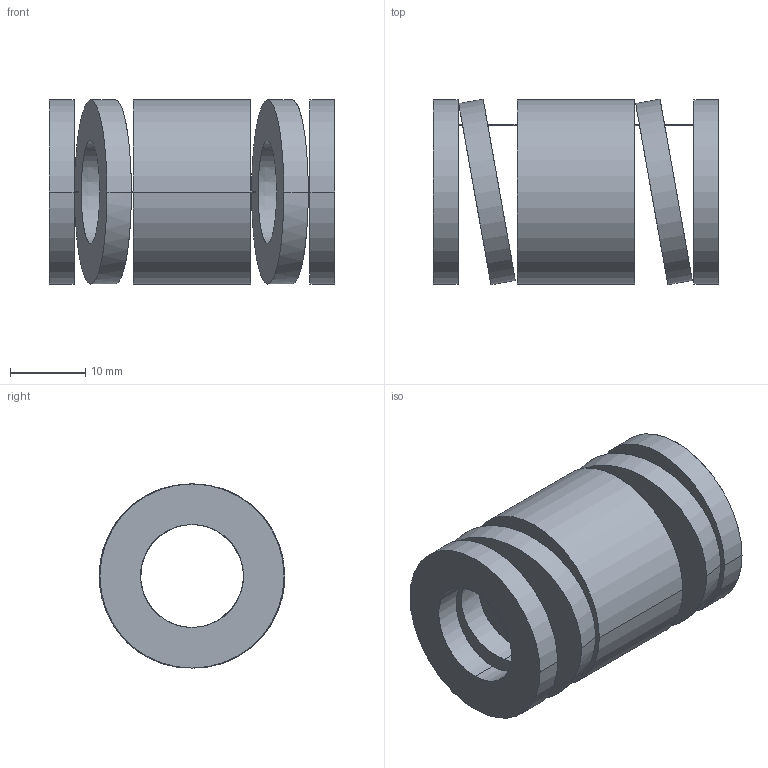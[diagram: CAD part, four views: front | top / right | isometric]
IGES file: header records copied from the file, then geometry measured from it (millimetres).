
Start section: START RECORD GO HERE.
Global section: file name: 392-B25-038.igs; native system: DASSAULT SYSTEMES CATIA V5 R20 - www.3ds.com; preprocessor: CATIA Version 5 Release 20 ; author: Utente; organization: NB04-ASUS; date: 20210813.095132; units: millimetre
Bounding box: 38 x 24.7 x 24.5 mm (x, y, z)
Surface area: 6709.1 mm2 (no closed solid volume)
Topology: 0 solids, 0 shells, 38 faces, 184 edges, 184 vertices
Faces by surface type: revolution 28, plane 10
